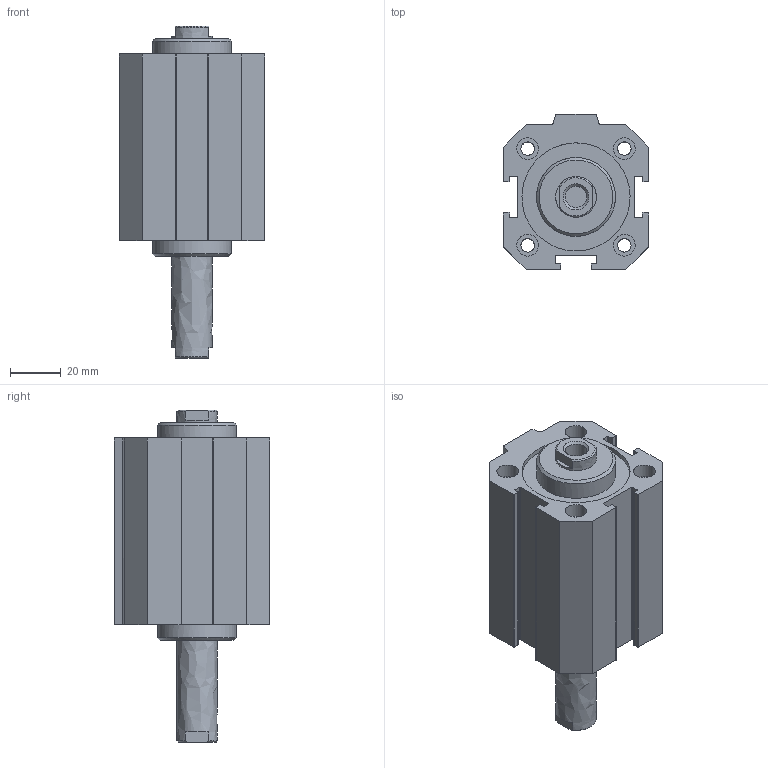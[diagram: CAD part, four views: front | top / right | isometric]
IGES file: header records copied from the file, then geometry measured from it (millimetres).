
Global section: file name: 1514_40_0035; native system: Autodesk Inventor 2014; preprocessor: unknown; author: A. Manieri; date: 20160824.120214; units: millimetre
Bounding box: 57 x 61 x 130.5 mm (x, y, z)
Volume: 182303 mm3; surface area: 53892.9 mm2
Topology: 2 solids, 2 shells, 130 faces, 339 edges, 233 vertices
Faces by surface type: bspline 130
